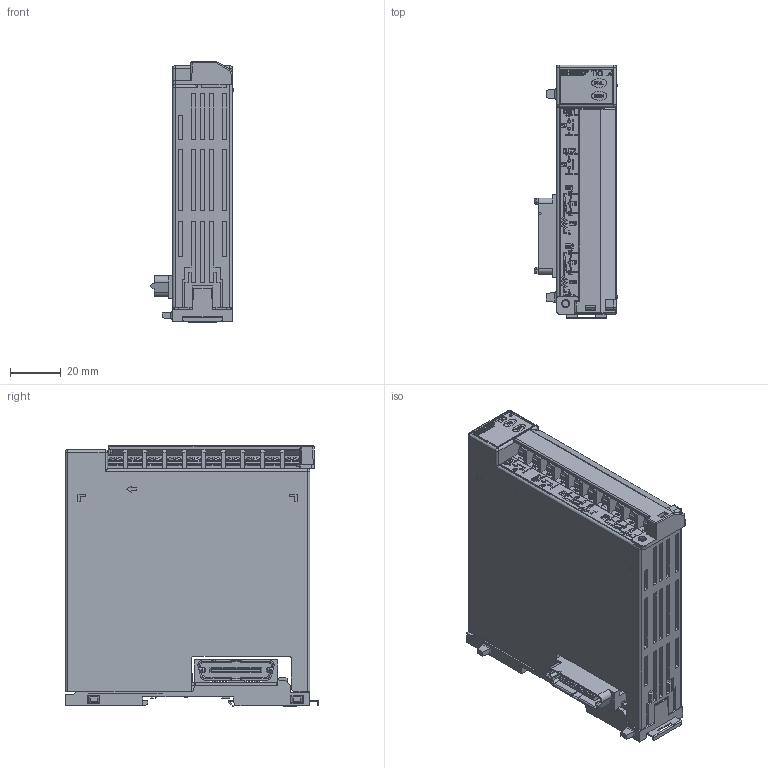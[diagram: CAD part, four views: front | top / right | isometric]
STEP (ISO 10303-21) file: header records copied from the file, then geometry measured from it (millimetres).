
FILE_DESCRIPTION (( 'STEP AP203' ), '1' );
FILE_NAME ('SRM(H-TIO)_WEB.STEP', '2020-09-03T01:18:53', ( '' ), ( '' ), 'SwSTEP 2.0', 'SolidWorks 2018', '' );
FILE_SCHEMA (( 'CONFIG_CONTROL_DESIGN' ));
Products named in the file (1): SRM(H-TIO)_WEB
Bounding box: 32.76 x 99.5 x 102.33 mm (x, y, z)
Volume: 196378.5 mm3; surface area: 57651.2 mm2
Topology: 8 solids, 10 shells, 5588 faces, 15394 edges, 10076 vertices
Faces by surface type: plane 3750, cylinder 1182, bspline 573, torus 64, sphere 19
Entity records: 191375 total; most frequent: CARTESIAN_POINT 50688, ORIENTED_EDGE 30714, DIRECTION 26477, EDGE_CURVE 15357, VECTOR 11527, LINE 11527, VERTEX_POINT 10064, AXIS2_PLACEMENT_3D 7475
